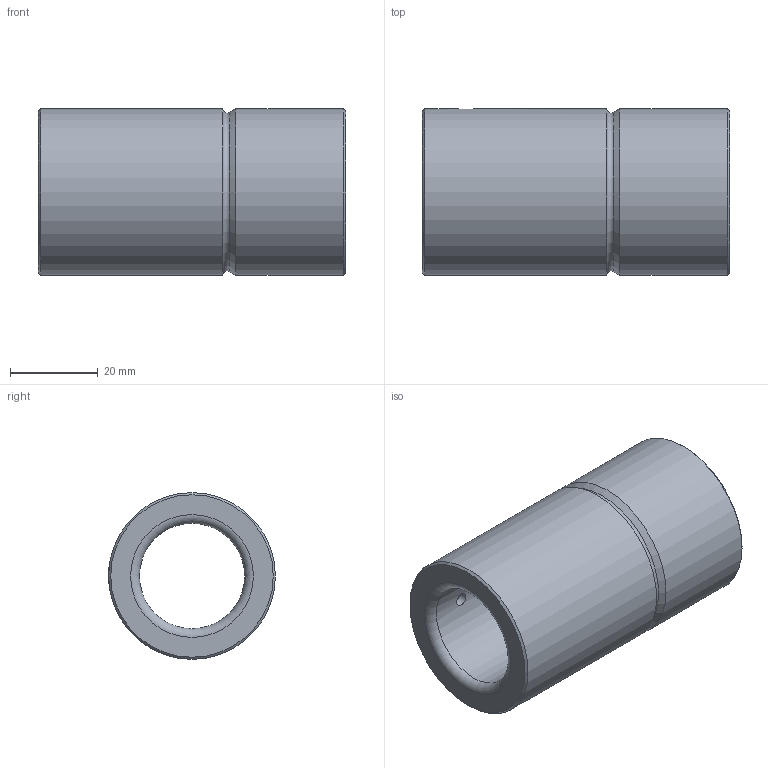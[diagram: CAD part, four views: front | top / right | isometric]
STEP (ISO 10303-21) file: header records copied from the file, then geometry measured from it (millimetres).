
FILE_DESCRIPTION( ( 'STEP AP214' ), '1' );
FILE_NAME( 'p:/temp/worker_27/temp/exporttempdir_1480_356_68Dbf/format_1/WZ 4068 24 x 70.stp', '2020-11-21T19:59:36', ( 'License CC BY-ND 4.0' ), ( 'CADENAS' ), ' ', 'PARTsolutions', ' ' );
FILE_SCHEMA( ( 'AUTOMOTIVE_DESIGN { 1 0 10303 214 1 1 1 1 }' ) );
Length unit declared in the file: millimetre
Products named in the file (1): _WZ 4068 24 x 70
Bounding box: 70 x 38.04 x 38.04 mm (x, y, z)
Volume: 45005 mm3; surface area: 15219.6 mm2
Topology: 1 solids, 1 shells, 16 faces, 29 edges, 17 vertices
Faces by surface type: cylinder 6, cone 4, plane 4, torus 2
Full cylindrical faces by diameter (mm): 3 x1, 5 x1, 24 x1, 26 x1, 38.04 x2
Entity records: 594 total; most frequent: CARTESIAN_POINT 165, DIRECTION 64, EDGE_LOOP 34, ORIENTED_EDGE 34, AXIS2_PLACEMENT_3D 32, FACE_OUTER_BOUND 24, EDGE_CURVE 17, VERTEX_POINT 17
